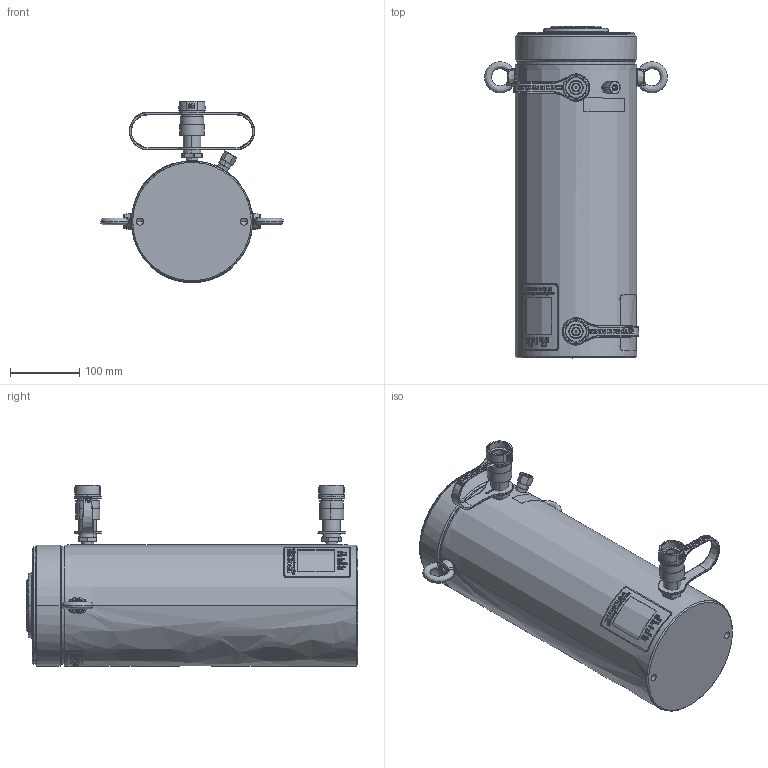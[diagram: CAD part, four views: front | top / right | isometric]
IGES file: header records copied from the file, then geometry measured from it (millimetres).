
Start section:  PTC IGES file: hcr10012.igs
Global section: file name: hcr10012.igs; native system: Creo Parametric by PTC Inc.; preprocessor: 2015290; author: Akhilesh.Subrahmanya; organization: Unknown; date: 20170622.101003; units: millimetre
Bounding box: 263.97 x 479 x 261.62 mm (x, y, z)
Surface area: 499560 mm2 (no closed solid volume)
Topology: 0 solids, 0 shells, 767 faces, 7122 edges, 7112 vertices
Faces by surface type: revolution 473, bspline 285, extrusion 9
